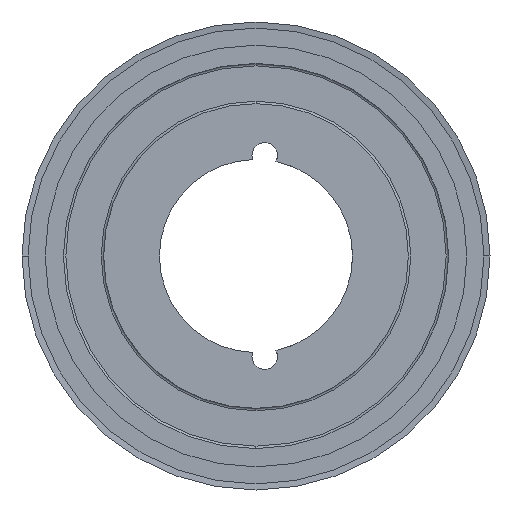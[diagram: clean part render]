
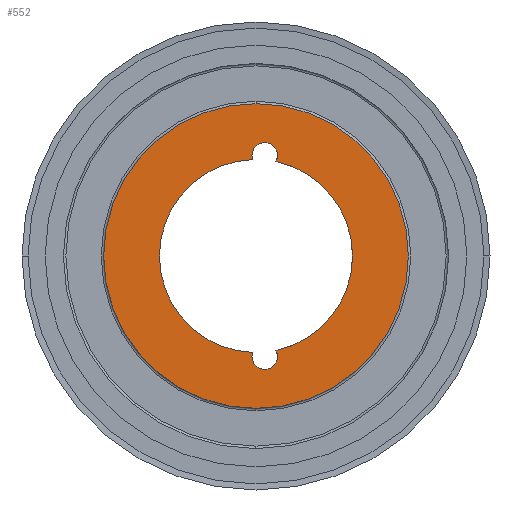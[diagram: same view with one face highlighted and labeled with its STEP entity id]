
A CAD part, left-side view. The second image highlights one B-rep face of the part: STEP entity #552.
In plain terms, the highlighted planar face has unit normal (-1, 0, 0).
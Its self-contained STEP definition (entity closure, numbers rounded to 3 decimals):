
#552 = ADVANCED_FACE( '', ( #1523, #1524 ), #1525, .T. );
#1523 = FACE_BOUND( '', #2509, .T. );
#1524 = FACE_OUTER_BOUND( '', #2510, .T. );
#1525 = PLANE( '', #2511 );
#2509 = EDGE_LOOP( '', ( #6759, #6760, #6761, #6762, #6763, #6764, #6765, #6766, #6767, #6768 ) );
#2510 = EDGE_LOOP( '', ( #6769, #6770 ) );
#2511 = AXIS2_PLACEMENT_3D( '', #6771, #6772, #6773 );
#6759 = ORIENTED_EDGE( '', *, *, #6952, .T. );
#6760 = ORIENTED_EDGE( '', *, *, #6955, .T. );
#6761 = ORIENTED_EDGE( '', *, *, #6954, .T. );
#6762 = ORIENTED_EDGE( '', *, *, #6947, .F. );
#6763 = ORIENTED_EDGE( '', *, *, #6959, .F. );
#6764 = ORIENTED_EDGE( '', *, *, #6963, .T. );
#6765 = ORIENTED_EDGE( '', *, *, #6939, .T. );
#6766 = ORIENTED_EDGE( '', *, *, #6934, .T. );
#6767 = ORIENTED_EDGE( '', *, *, #6960, .F. );
#6768 = ORIENTED_EDGE( '', *, *, #6945, .F. );
#6769 = ORIENTED_EDGE( '', *, *, #6888, .T. );
#6770 = ORIENTED_EDGE( '', *, *, #8276, .T. );
#6771 = CARTESIAN_POINT( '', ( 7.5, 51.052, 0. ) );
#6772 = DIRECTION( '', ( -1., 0., 0. ) );
#6773 = DIRECTION( '', ( 0., 1., 0. ) );
#6888 = EDGE_CURVE( '', #8338, #8344, #8346, .T. );
#6934 = EDGE_CURVE( '', #8424, #8427, #8429, .T. );
#6939 = EDGE_CURVE( '', #8431, #8424, #8438, .T. );
#6945 = EDGE_CURVE( '', #8447, #8439, #8449, .T. );
#6947 = EDGE_CURVE( '', #8450, #8453, #8454, .T. );
#6952 = EDGE_CURVE( '', #8447, #8460, #8462, .T. );
#6954 = EDGE_CURVE( '', #8463, #8453, #8465, .T. );
#6955 = EDGE_CURVE( '', #8460, #8463, #8466, .T. );
#6959 = EDGE_CURVE( '', #8469, #8450, #8471, .T. );
#6960 = EDGE_CURVE( '', #8439, #8427, #8472, .T. );
#6963 = EDGE_CURVE( '', #8469, #8431, #8475, .T. );
#8276 = EDGE_CURVE( '', #8344, #8338, #10654, .T. );
#8338 = VERTEX_POINT( '', #10726 );
#8344 = VERTEX_POINT( '', #10733 );
#8346 = CIRCLE( '', #10736, 62.5 );
#8424 = VERTEX_POINT( '', #10869 );
#8427 = VERTEX_POINT( '', #10873 );
#8429 = CIRCLE( '', #10884, 5.25 );
#8431 = VERTEX_POINT( '', #10886 );
#8438 = CIRCLE( '', #10912, 5.25 );
#8439 = VERTEX_POINT( '', #10913 );
#8447 = VERTEX_POINT( '', #10936 );
#8449 = CIRCLE( '', #10947, 39.603 );
#8450 = VERTEX_POINT( '', #10948 );
#8453 = VERTEX_POINT( '', #10952 );
#8454 = CIRCLE( '', #10953, 39.603 );
#8460 = VERTEX_POINT( '', #10977 );
#8462 = CIRCLE( '', #10980, 5.25 );
#8463 = VERTEX_POINT( '', #10981 );
#8465 = CIRCLE( '', #10984, 5.25 );
#8466 = CIRCLE( '', #10985, 5.25 );
#8469 = VERTEX_POINT( '', #10988 );
#8471 = CIRCLE( '', #10999, 39.603 );
#8472 = CIRCLE( '', #11000, 39.603 );
#8475 = CIRCLE( '', #11036, 5.25 );
#10654 = CIRCLE( '', #13935, 62.5 );
#10726 = CARTESIAN_POINT( '', ( 7.5, 62.5, 0. ) );
#10733 = CARTESIAN_POINT( '', ( 7.5, -62.5, 0. ) );
#10736 = AXIS2_PLACEMENT_3D( '', #14018, #14019, #14020 );
#10869 = CARTESIAN_POINT( '', ( 7.5, 1.653, -41.275 ) );
#10873 = CARTESIAN_POINT( '', ( 7.5, 1.371, -39.58 ) );
#10884 = AXIS2_PLACEMENT_3D( '', #14111, #14112, #14113 );
#10886 = CARTESIAN_POINT( '', ( 7.5, -8.847, -41.275 ) );
#10912 = AXIS2_PLACEMENT_3D( '', #14118, #14119, #14120 );
#10913 = CARTESIAN_POINT( '', ( 7.5, 39.603, 0. ) );
#10936 = CARTESIAN_POINT( '', ( 7.5, 1.371, 39.58 ) );
#10947 = AXIS2_PLACEMENT_3D( '', #14125, #14126, #14127 );
#10948 = CARTESIAN_POINT( '', ( 7.5, -39.603, 0. ) );
#10952 = CARTESIAN_POINT( '', ( 7.5, -8.198, 38.746 ) );
#10953 = AXIS2_PLACEMENT_3D( '', #14129, #14130, #14131 );
#10977 = CARTESIAN_POINT( '', ( 7.5, 1.653, 41.275 ) );
#10980 = AXIS2_PLACEMENT_3D( '', #14136, #14137, #14138 );
#10981 = CARTESIAN_POINT( '', ( 7.5, -8.847, 41.275 ) );
#10984 = AXIS2_PLACEMENT_3D( '', #14140, #14141, #14142 );
#10985 = AXIS2_PLACEMENT_3D( '', #14143, #14144, #14145 );
#10988 = CARTESIAN_POINT( '', ( 7.5, -8.198, -38.746 ) );
#10999 = AXIS2_PLACEMENT_3D( '', #14152, #14153, #14154 );
#11000 = AXIS2_PLACEMENT_3D( '', #14155, #14156, #14157 );
#11036 = AXIS2_PLACEMENT_3D( '', #14161, #14162, #14163 );
#13935 = AXIS2_PLACEMENT_3D( '', #16660, #16661, #16662 );
#14018 = CARTESIAN_POINT( '', ( 7.5, 0., 0. ) );
#14019 = DIRECTION( '', ( -1., 0., 0. ) );
#14020 = DIRECTION( '', ( 0., 1., 0. ) );
#14111 = CARTESIAN_POINT( '', ( 7.5, -3.597, -41.275 ) );
#14112 = DIRECTION( '', ( 1., 0., 0. ) );
#14113 = DIRECTION( '', ( 0., -1., 0. ) );
#14118 = CARTESIAN_POINT( '', ( 7.5, -3.597, -41.275 ) );
#14119 = DIRECTION( '', ( 1., 0., 0. ) );
#14120 = DIRECTION( '', ( 0., -1., 0. ) );
#14125 = CARTESIAN_POINT( '', ( 7.5, 0., 0. ) );
#14126 = DIRECTION( '', ( -1., 0., 0. ) );
#14127 = DIRECTION( '', ( 0., 1., 0. ) );
#14129 = CARTESIAN_POINT( '', ( 7.5, 0., 0. ) );
#14130 = DIRECTION( '', ( -1., 0., 0. ) );
#14131 = DIRECTION( '', ( 0., 1., 0. ) );
#14136 = CARTESIAN_POINT( '', ( 7.5, -3.597, 41.275 ) );
#14137 = DIRECTION( '', ( 1., 0., 0. ) );
#14138 = DIRECTION( '', ( 0., -1., 0. ) );
#14140 = CARTESIAN_POINT( '', ( 7.5, -3.597, 41.275 ) );
#14141 = DIRECTION( '', ( 1., 0., 0. ) );
#14142 = DIRECTION( '', ( 0., -1., 0. ) );
#14143 = CARTESIAN_POINT( '', ( 7.5, -3.597, 41.275 ) );
#14144 = DIRECTION( '', ( 1., 0., 0. ) );
#14145 = DIRECTION( '', ( 0., -1., 0. ) );
#14152 = CARTESIAN_POINT( '', ( 7.5, 0., 0. ) );
#14153 = DIRECTION( '', ( -1., 0., 0. ) );
#14154 = DIRECTION( '', ( 0., 1., 0. ) );
#14155 = CARTESIAN_POINT( '', ( 7.5, 0., 0. ) );
#14156 = DIRECTION( '', ( -1., 0., 0. ) );
#14157 = DIRECTION( '', ( 0., 1., 0. ) );
#14161 = CARTESIAN_POINT( '', ( 7.5, -3.597, -41.275 ) );
#14162 = DIRECTION( '', ( 1., 0., 0. ) );
#14163 = DIRECTION( '', ( 0., -1., 0. ) );
#16660 = CARTESIAN_POINT( '', ( 7.5, 0., 0. ) );
#16661 = DIRECTION( '', ( -1., 0., 0. ) );
#16662 = DIRECTION( '', ( 0., 1., 0. ) );
